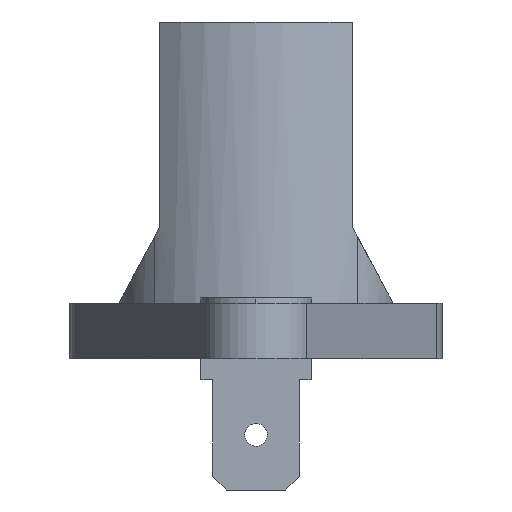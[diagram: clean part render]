
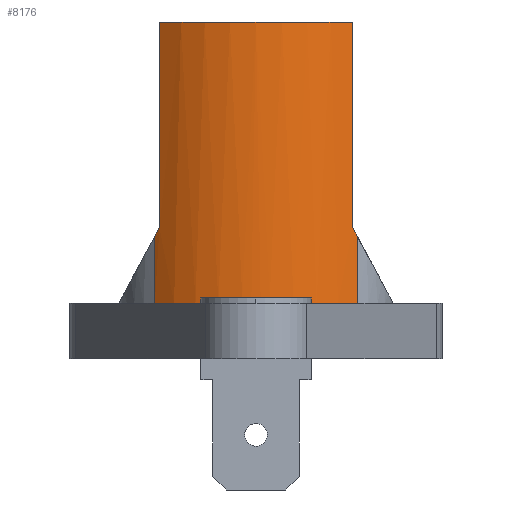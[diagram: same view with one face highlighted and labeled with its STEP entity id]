
A CAD part, left-side view. The second image highlights one B-rep face of the part: STEP entity #8176.
In plain terms, the highlighted cylindrical face has radius 11 mm (diameter 22 mm), a partial arc.
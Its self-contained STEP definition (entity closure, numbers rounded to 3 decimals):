
#2401=CARTESIAN_POINT(' ',(-4.25,0.,0.));
#2406=DIRECTION(' ',(0.,0.,-1.));
#2411=DIRECTION(' ',(-0.771,-0.636,0.));
#2416=AXIS2_PLACEMENT_3D(' ',#2401,#2406,#2411);
#2421=CIRCLE('',#2416,11.);
#2426=CARTESIAN_POINT(' ',(-12.735,-7.,0.));
#2427=VERTEX_POINT(' ',#2426);
#2431=CARTESIAN_POINT(' ',(-12.735,7.,0.));
#2432=VERTEX_POINT(' ',#2431);
#2436=EDGE_CURVE(' ',#2427,#2432,#2421,.T.);
#7741=CARTESIAN_POINT(' ',(-4.25,0.,-41.992));
#7746=DIRECTION(' ',(0.,0.,1.));
#7751=DIRECTION(' ',(-0.745,0.667,0.));
#7756=AXIS2_PLACEMENT_3D(' ',#7741,#7746,#7751);
#7761=CYLINDRICAL_SURFACE(' ',#7756,11.);
#7766=CARTESIAN_POINT(' ',(-15.204,1.,-20.));
#7771=DIRECTION(' ',(0.,0.,-1.));
#7776=VECTOR(' ',#7771,1.);
#7781=LINE('',#7766,#7776);
#7786=CARTESIAN_POINT(' ',(-15.204,1.,-20.));
#7787=VERTEX_POINT(' ',#7786);
#7791=CARTESIAN_POINT(' ',(-15.204,1.,-20.4));
#7792=VERTEX_POINT(' ',#7791);
#7796=EDGE_CURVE(' ',#7787,#7792,#7781,.T.);
#7801=ORIENTED_EDGE(' ',*,*,#7796,.F.);
#7806=CARTESIAN_POINT(' ',(-4.25,0.,-20.));
#7811=DIRECTION(' ',(0.,0.,-1.));
#7816=DIRECTION(' ',(-0.996,-0.091,0.));
#7821=AXIS2_PLACEMENT_3D(' ',#7806,#7811,#7816);
#7826=CIRCLE('',#7821,11.);
#7831=CARTESIAN_POINT(' ',(-15.204,-1.,-20.));
#7832=VERTEX_POINT(' ',#7831);
#7836=EDGE_CURVE(' ',#7832,#7787,#7826,.T.);
#7841=ORIENTED_EDGE(' ',*,*,#7836,.F.);
#7846=CARTESIAN_POINT(' ',(-15.204,-1.,-20.));
#7851=DIRECTION(' ',(0.,0.,-1.));
#7856=VECTOR(' ',#7851,1.);
#7861=LINE('',#7846,#7856);
#7866=CARTESIAN_POINT(' ',(-15.204,-1.,-20.4));
#7867=VERTEX_POINT(' ',#7866);
#7871=EDGE_CURVE(' ',#7832,#7867,#7861,.T.);
#7876=ORIENTED_EDGE(' ',*,*,#7871,.T.);
#7881=CARTESIAN_POINT(' ',(-4.25,0.,-20.4));
#7886=DIRECTION(' ',(0.,0.,-1.));
#7891=DIRECTION(' ',(-0.745,-0.667,0.));
#7896=AXIS2_PLACEMENT_3D(' ',#7881,#7886,#7891);
#7901=CIRCLE('',#7896,11.);
#7906=CARTESIAN_POINT(' ',(-12.449,-7.333,-20.4));
#7907=VERTEX_POINT(' ',#7906);
#7911=EDGE_CURVE(' ',#7907,#7867,#7901,.T.);
#7916=ORIENTED_EDGE(' ',*,*,#7911,.F.);
#7921=CARTESIAN_POINT(' ',(-12.449,-7.333,-15.521));
#7926=DIRECTION(' ',(0.,0.,-1.));
#7931=VECTOR(' ',#7926,1.);
#7936=LINE('',#7921,#7931);
#7941=CARTESIAN_POINT(' ',(-12.449,-7.333,-15.521));
#7942=VERTEX_POINT(' ',#7941);
#7946=EDGE_CURVE(' ',#7942,#7907,#7936,.T.);
#7951=ORIENTED_EDGE(' ',*,*,#7946,.F.);
#7956=CARTESIAN_POINT(' ',(-12.735,-7.,-14.9));
#7961=DIRECTION(' ',(0.376,-0.438,-0.816));
#7966=VECTOR(' ',#7961,1.);
#7971=LINE('',#7956,#7966);
#7976=CARTESIAN_POINT(' ',(-12.735,-7.,-14.9));
#7977=VERTEX_POINT(' ',#7976);
#7981=EDGE_CURVE(' ',#7977,#7942,#7971,.T.);
#7986=ORIENTED_EDGE(' ',*,*,#7981,.F.);
#7991=CARTESIAN_POINT(' ',(-12.735,-7.,0.));
#7996=DIRECTION(' ',(0.,0.,-1.));
#8001=VECTOR(' ',#7996,1.);
#8006=LINE('',#7991,#8001);
#8011=EDGE_CURVE(' ',#2427,#7977,#8006,.T.);
#8016=ORIENTED_EDGE(' ',*,*,#8011,.F.);
#8021=ORIENTED_EDGE(' ',*,*,#2436,.T.);
#8026=CARTESIAN_POINT(' ',(-12.735,7.,0.));
#8031=DIRECTION(' ',(0.,0.,-1.));
#8036=VECTOR(' ',#8031,1.);
#8041=LINE('',#8026,#8036);
#8046=CARTESIAN_POINT(' ',(-12.735,7.,-14.9));
#8047=VERTEX_POINT(' ',#8046);
#8051=EDGE_CURVE(' ',#2432,#8047,#8041,.T.);
#8056=ORIENTED_EDGE(' ',*,*,#8051,.T.);
#8061=CARTESIAN_POINT(' ',(-12.735,7.,-14.9));
#8066=DIRECTION(' ',(0.376,0.438,-0.816));
#8071=VECTOR(' ',#8066,1.);
#8076=LINE('',#8061,#8071);
#8081=CARTESIAN_POINT(' ',(-12.449,7.333,-15.521));
#8082=VERTEX_POINT(' ',#8081);
#8086=EDGE_CURVE(' ',#8047,#8082,#8076,.T.);
#8091=ORIENTED_EDGE(' ',*,*,#8086,.T.);
#8096=CARTESIAN_POINT(' ',(-12.449,7.333,-15.521));
#8101=DIRECTION(' ',(0.,0.,-1.));
#8106=VECTOR(' ',#8101,1.);
#8111=LINE('',#8096,#8106);
#8116=CARTESIAN_POINT(' ',(-12.449,7.333,-20.4));
#8117=VERTEX_POINT(' ',#8116);
#8121=EDGE_CURVE(' ',#8082,#8117,#8111,.T.);
#8126=ORIENTED_EDGE(' ',*,*,#8121,.T.);
#8131=CARTESIAN_POINT(' ',(-4.25,0.,-20.4));
#8136=DIRECTION(' ',(0.,-0.,-1.));
#8141=DIRECTION(' ',(-0.996,0.091,0.));
#8146=AXIS2_PLACEMENT_3D(' ',#8131,#8136,#8141);
#8151=CIRCLE('',#8146,11.);
#8156=EDGE_CURVE(' ',#7792,#8117,#8151,.T.);
#8161=ORIENTED_EDGE(' ',*,*,#8156,.F.);
#8166=EDGE_LOOP(' ',(#7801,#7841,#7876,#7916,#7951,#7986,#8016,#8021,#8056,#8091,#8126,#8161));
#8171=FACE_OUTER_BOUND(' ',#8166,.T.);
#8176=ADVANCED_FACE('',(#8171),#7761,.T.);
